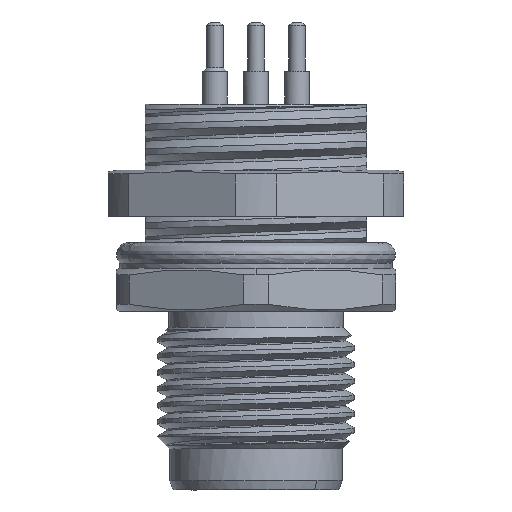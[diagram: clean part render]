
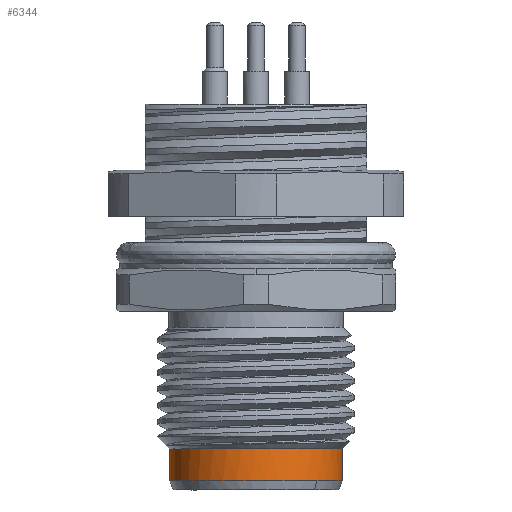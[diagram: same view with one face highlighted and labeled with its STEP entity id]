
A CAD part, front view. The second image highlights one B-rep face of the part: STEP entity #6344.
In plain terms, the highlighted cylindrical face has radius 5.25 mm (diameter 10.5 mm), a partial arc.
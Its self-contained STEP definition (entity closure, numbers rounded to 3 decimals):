
#204 = DIRECTION ( 'NONE',  ( 0., 0., 1. ) ) ;
#1549 = CIRCLE ( 'NONE', #17146, 5.25 ) ;
#3313 = EDGE_LOOP ( 'NONE', ( #13286, #9221, #23996, #25466, #32180 ) ) ;
#5396 = CARTESIAN_POINT ( 'NONE',  ( 4.15, 9.4, -23.507 ) ) ;
#6214 = DIRECTION ( 'NONE',  ( 0., 0., 1. ) ) ;
#6344 = ADVANCED_FACE ( 'NONE', ( #7821 ), #14881, .T. ) ;
#6357 = EDGE_CURVE ( 'NONE', #31872, #28888, #1549, .T. ) ;
#7736 = EDGE_CURVE ( 'NONE', #11137, #23028, #26982, .T. ) ;
#7821 = FACE_OUTER_BOUND ( 'NONE', #3313, .T. ) ;
#8990 = CARTESIAN_POINT ( 'NONE',  ( 14.65, 9.4, -23.507 ) ) ;
#9221 = ORIENTED_EDGE ( 'NONE', *, *, #6357, .F. ) ;
#9595 = LINE ( 'NONE', #26896, #10404 ) ;
#10404 = VECTOR ( 'NONE', #21870, 1000. ) ;
#11137 = VERTEX_POINT ( 'NONE', #5396 ) ;
#11554 = DIRECTION ( 'NONE',  ( 0., 0., -1. ) ) ;
#11668 = DIRECTION ( 'NONE',  ( 1., 0., 0. ) ) ;
#12649 = EDGE_CURVE ( 'NONE', #23028, #32331, #31598, .T. ) ;
#13286 = ORIENTED_EDGE ( 'NONE', *, *, #19138, .F. ) ;
#13352 = CARTESIAN_POINT ( 'NONE',  ( 9.4, 9.4, -23.507 ) ) ;
#14191 = CARTESIAN_POINT ( 'NONE',  ( 9.4, 9.4, -23.507 ) ) ;
#14236 = DIRECTION ( 'NONE',  ( 0., 0., -1. ) ) ;
#14881 = CYLINDRICAL_SURFACE ( 'NONE', #22318, 5.25 ) ;
#16739 = AXIS2_PLACEMENT_3D ( 'NONE', #13352, #204, #32014 ) ;
#16852 = DIRECTION ( 'NONE',  ( -1., 0., 0. ) ) ;
#17146 = AXIS2_PLACEMENT_3D ( 'NONE', #24738, #6214, #11668 ) ;
#19138 = EDGE_CURVE ( 'NONE', #28888, #32331, #23538, .T. ) ;
#21870 = DIRECTION ( 'NONE',  ( 0., 0., -1. ) ) ;
#22056 = CARTESIAN_POINT ( 'NONE',  ( 14.65, 9.4, -22.531 ) ) ;
#22318 = AXIS2_PLACEMENT_3D ( 'NONE', #27671, #11554, #25200 ) ;
#23028 = VERTEX_POINT ( 'NONE', #26726 ) ;
#23538 = LINE ( 'NONE', #22056, #27792 ) ;
#23996 = ORIENTED_EDGE ( 'NONE', *, *, #33132, .T. ) ;
#24738 = CARTESIAN_POINT ( 'NONE',  ( 9.4, 9.4, -21.556 ) ) ;
#25200 = DIRECTION ( 'NONE',  ( -1., 0., 0. ) ) ;
#25466 = ORIENTED_EDGE ( 'NONE', *, *, #7736, .T. ) ;
#26248 = CARTESIAN_POINT ( 'NONE',  ( 4.15, 9.4, -21.556 ) ) ;
#26726 = CARTESIAN_POINT ( 'NONE',  ( 13.112, 5.688, -23.507 ) ) ;
#26896 = CARTESIAN_POINT ( 'NONE',  ( 4.15, 9.4, -22.531 ) ) ;
#26982 = CIRCLE ( 'NONE', #16739, 5.25 ) ;
#27671 = CARTESIAN_POINT ( 'NONE',  ( 9.4, 9.4, -22.531 ) ) ;
#27792 = VECTOR ( 'NONE', #14236, 1000. ) ;
#28888 = VERTEX_POINT ( 'NONE', #33779 ) ;
#31598 = CIRCLE ( 'NONE', #33266, 5.25 ) ;
#31872 = VERTEX_POINT ( 'NONE', #26248 ) ;
#32014 = DIRECTION ( 'NONE',  ( -1., 0., 0. ) ) ;
#32180 = ORIENTED_EDGE ( 'NONE', *, *, #12649, .T. ) ;
#32331 = VERTEX_POINT ( 'NONE', #8990 ) ;
#32835 = DIRECTION ( 'NONE',  ( 0., 0., 1. ) ) ;
#33132 = EDGE_CURVE ( 'NONE', #31872, #11137, #9595, .T. ) ;
#33266 = AXIS2_PLACEMENT_3D ( 'NONE', #14191, #32835, #16852 ) ;
#33779 = CARTESIAN_POINT ( 'NONE',  ( 14.65, 9.4, -21.556 ) ) ;
